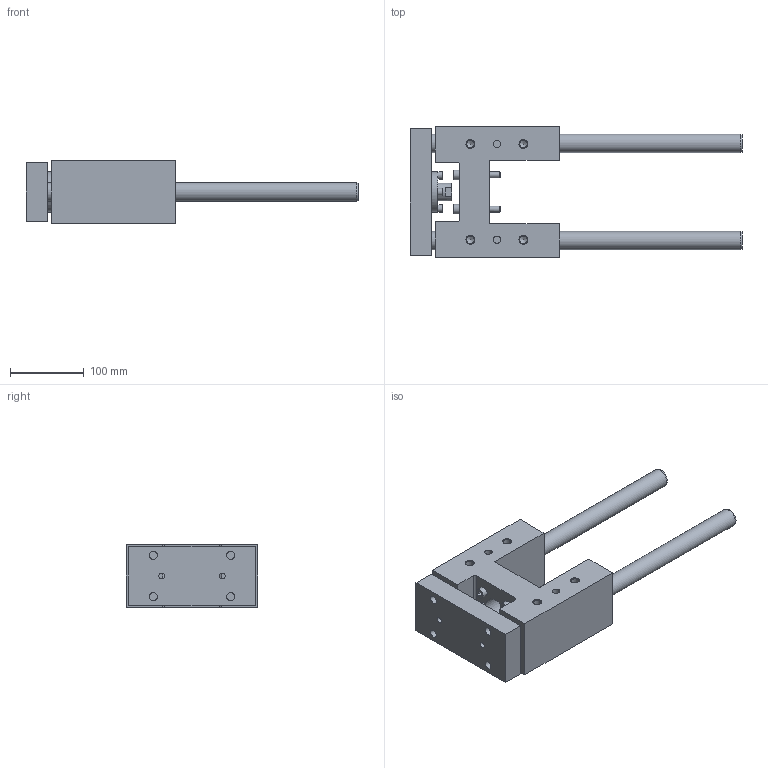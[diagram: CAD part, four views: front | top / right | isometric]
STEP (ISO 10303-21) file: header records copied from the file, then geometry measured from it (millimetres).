
FILE_DESCRIPTION( ( 'STEP AP214' ), '1' );
FILE_NAME( 'U:/Etudes/Top Solid/BIBLIO 3D AVM/TOP/PNEUMATIQUE/GUIDAGES/Type 32 (en H)/R_Renforcée/326R4_30.step', '2005-05-27T09:01:57', ( ' ' ), ( ' ' ), 'XStep 1.0', ' ', ' ' );
FILE_SCHEMA( ( 'automotive_design' ) );
Length unit declared in the file: metre
Products named in the file (2): 1; 2
Bounding box: 451 x 178 x 85 mm (x, y, z)
Volume: 2224468.8 mm3; surface area: 286213.1 mm2
Topology: 2 solids, 7 shells, 209 faces, 484 edges, 321 vertices
Faces by surface type: plane 118, cylinder 70, cone 21
Full cylindrical faces by diameter (mm): 6 x8, 6.5 x4, 8 x10, 8.376 x4, 9 x4, 10 x6, 10.106 x8, 11 x4, 13 x4, 14.376 x2, 18 x4, 24 x1, 25 x4, 26 x1, 34 x1, 37 x1, 40 x1, 55 x1
Entity records: 7089 total; most frequent: CARTESIAN_POINT 1103, DIRECTION 900, ORIENTED_EDGE 696, EDGE_LOOP 358, AXIS2_PLACEMENT_3D 349, EDGE_CURVE 348, VERTEX_POINT 280, FACE_OUTER_BOUND 277
